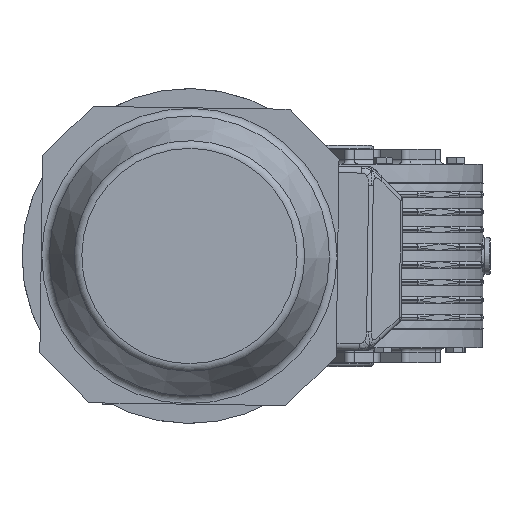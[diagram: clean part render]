
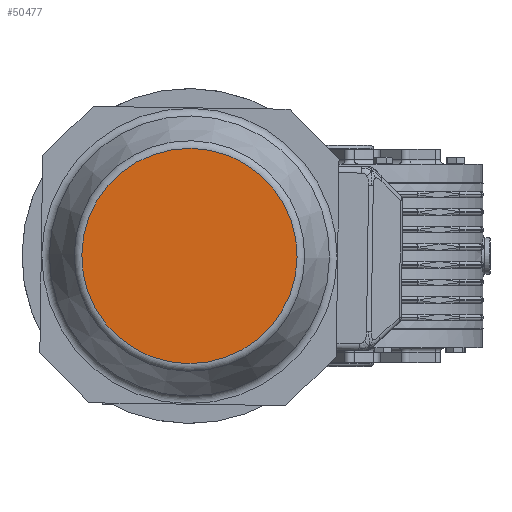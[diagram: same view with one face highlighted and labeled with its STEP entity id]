
A CAD part, left-side view. The second image highlights one B-rep face of the part: STEP entity #50477.
In plain terms, the highlighted planar face has unit normal (-1, 0, 0) as drawn and (1, 0, 0) by its records, which use the part's own axes.
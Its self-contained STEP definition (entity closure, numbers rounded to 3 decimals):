
#50454=CARTESIAN_POINT('',(308.,0.0,64.298));
#50455=VERTEX_POINT('',#50454);
#50456=CARTESIAN_POINT('',(308.0,0.0,0.));
#50457=DIRECTION('',(-1.0,0.0,0.0));
#50458=DIRECTION('',(0.0,0.0,-1.0));
#50459=AXIS2_PLACEMENT_3D('',#50456,#50457,#50458);
#50460=CIRCLE('',#50459,64.298);
#50461=EDGE_CURVE('',#50455,#50455,#50460,.T.);
#50469=CARTESIAN_POINT('',(308.0,0.0,33.75));
#50470=DIRECTION('',(1.0,0.0,0.0));
#50471=DIRECTION('',(0.0,0.0,-1.0));
#50472=AXIS2_PLACEMENT_3D('',#50469,#50470,#50471);
#50473=PLANE('',#50472);
#50474=ORIENTED_EDGE('',*,*,#50461,.F.);
#50475=EDGE_LOOP('',(#50474));
#50476=FACE_OUTER_BOUND('',#50475,.T.);
#50477=ADVANCED_FACE('',(#50476),#50473,.T.);
